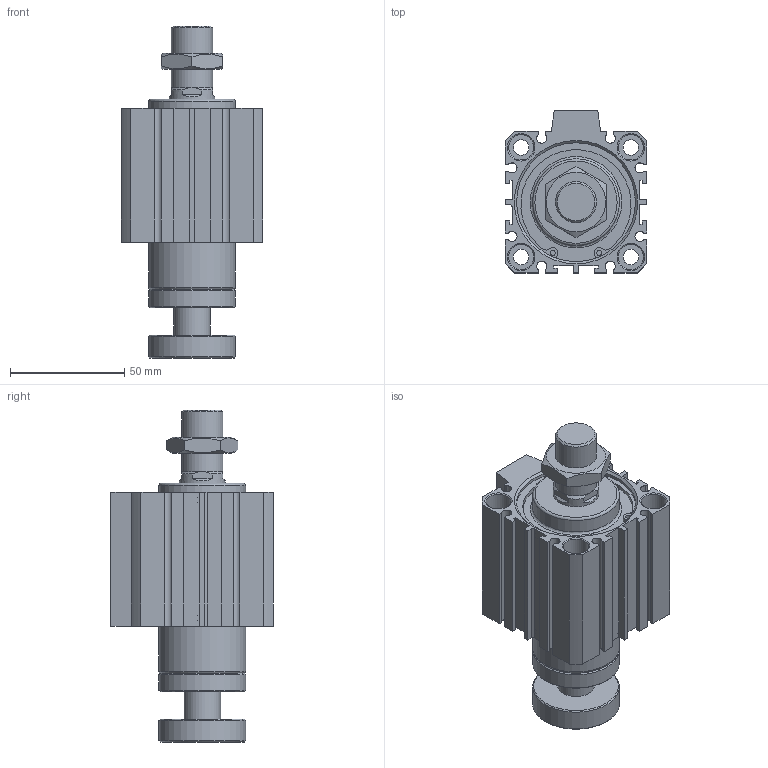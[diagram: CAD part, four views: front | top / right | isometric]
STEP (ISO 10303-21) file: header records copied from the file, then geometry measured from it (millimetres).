
FILE_DESCRIPTION((''),'2;1');
FILE_NAME('I:\3D電子目錄\氣缸\JDAR\JDAR-B\JDAR50-B\JDAR50x30-B.stp','2007-03-22T15:32:45',('662F206'),(''),'Autodesk Inventor 11','Autodesk Inventor 11','');
FILE_SCHEMA(('AUTOMOTIVE_DESIGN { 1 0 10303 214 1 1 1 1 }'));
Length unit declared in the file: millimetre
Products named in the file (3): JDAR50-B; R 形環 52
Assembly tree (3 placements, depth 2):
  JDAR50-B
    JDAR50-B
    R 形環 52  x2
Bounding box: 62 x 71 x 145.3 mm (x, y, z)
Volume: 255138.7 mm3; surface area: 53822 mm2
Topology: 3 solids, 3 shells, 204 faces, 493 edges, 321 vertices
Faces by surface type: plane 119, cylinder 56, cone 25, bspline 2, torus 2
Full cylindrical faces by diameter (mm): 2.3 x4, 2.7 x2, 6.8 x4, 11 x8, 16 x1, 18 x2, 20 x1, 38 x4, 52 x4, 55 x2
Entity records: 5422 total; most frequent: CARTESIAN_POINT 1023, DIRECTION 907, ORIENTED_EDGE 804, EDGE_CURVE 402, AXIS2_PLACEMENT_3D 329, VERTEX_POINT 295, EDGE_LOOP 285, VECTOR 249
